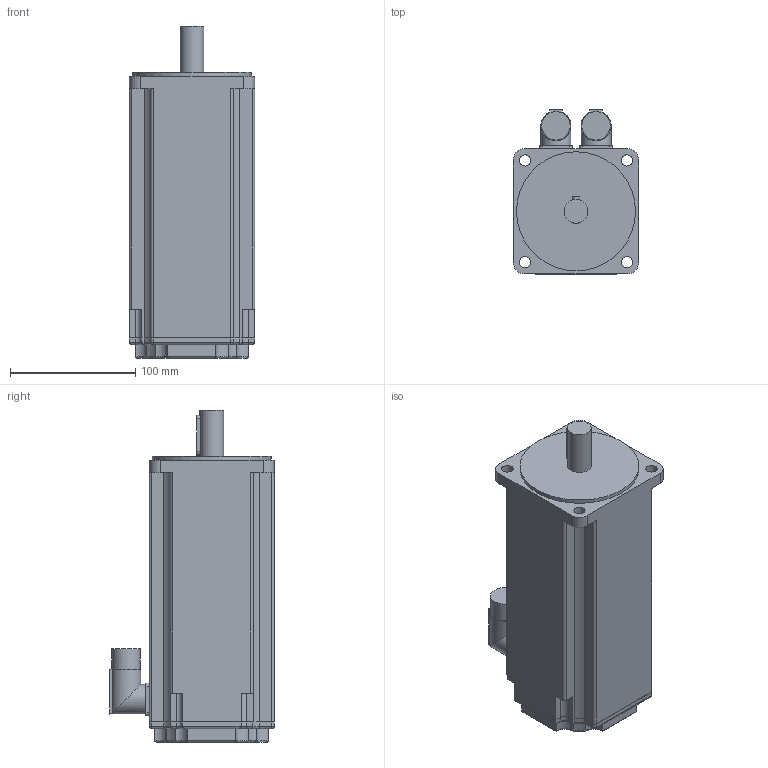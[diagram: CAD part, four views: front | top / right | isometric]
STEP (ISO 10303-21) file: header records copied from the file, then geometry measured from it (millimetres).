
FILE_DESCRIPTION(/* description */ (''),/* implementation_level */ '2;1');
FILE_NAME(/* name */ '\\Lafnas01\disegni\Archivi Lafert\3D\CAD 3D\MODELLI\Assiemi clienti\Serad\Modelli 3D Serad\B63Q\Encoder\Enc Without Brake\B6310Qxx6ARx2033.ipt.stp',/* time_stamp */ '2015-09-07T10:51:15+02:00',/* author */ ('Pastrello Ylenia'),/* organization */ (''),/* preprocessor_version */ 'ST-DEVELOPER v15.6',/* originating_system */ 'Autodesk Inventor 2015',/* authorisation */ '');
FILE_SCHEMA (('AUTOMOTIVE_DESIGN { 1 0 10303 214 3 1 1 }'));
Length unit declared in the file: millimetre
Products named in the file (1): B6310Qxx6ARx2033
Bounding box: 100 x 131.5 x 265 mm (x, y, z)
Volume: 2058810.3 mm3; surface area: 117522.9 mm2
Topology: 1 solids, 1 shells, 195 faces, 500 edges, 318 vertices
Faces by surface type: cylinder 90, plane 81, torus 20, sphere 4
Full cylindrical faces by diameter (mm): 9 x4, 19 x1, 22.7 x2, 24 x2, 95 x1
Entity records: 6152 total; most frequent: CARTESIAN_POINT 1342, DIRECTION 1030, ORIENTED_EDGE 972, EDGE_CURVE 486, AXIS2_PLACEMENT_3D 374, VERTEX_POINT 314, LINE 282, VECTOR 282
